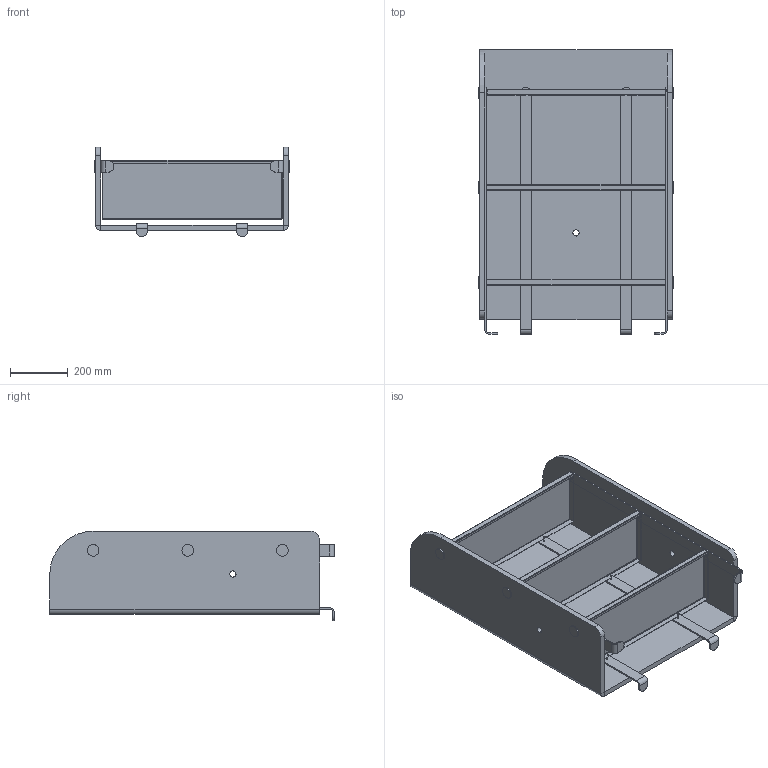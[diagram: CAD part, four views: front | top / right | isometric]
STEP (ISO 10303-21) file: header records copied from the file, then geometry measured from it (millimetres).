
FILE_DESCRIPTION (( 'STEP AP214' ), '1' );
FILE_NAME ('NIK_SHELVE90.STEP', '2021-11-29T08:49:12', ( '' ), ( '' ), 'SwSTEP 2.0', 'SolidWorks 2019', '' );
FILE_SCHEMA (( 'AUTOMOTIVE_DESIGN' ));
Length unit declared in the file: millimetre
Products named in the file (5): EDE_BOOK; 90; TORNILLOS18; NIK_SHELVE90; NIK_SUP_04_01
Assembly tree (14 placements, depth 2):
  NIK_SHELVE90
    90
    NIK_SUP_04_01  x4
    TORNILLOS18  x6
    EDE_BOOK  x3
Bounding box: 677.91 x 985.5 x 309.95 mm (x, y, z)
Volume: 21368669.8 mm3; surface area: 3620165.1 mm2
Topology: 14 solids, 14 shells, 860 faces, 2280 edges, 1454 vertices
Faces by surface type: cylinder 586, plane 256, bspline 18
Entity records: 12666 total; most frequent: CARTESIAN_POINT 6995, ORIENTED_EDGE 1206, DIRECTION 1089, EDGE_CURVE 603, AXIS2_PLACEMENT_3D 385, VERTEX_POINT 379, VECTOR 319, LINE 319
